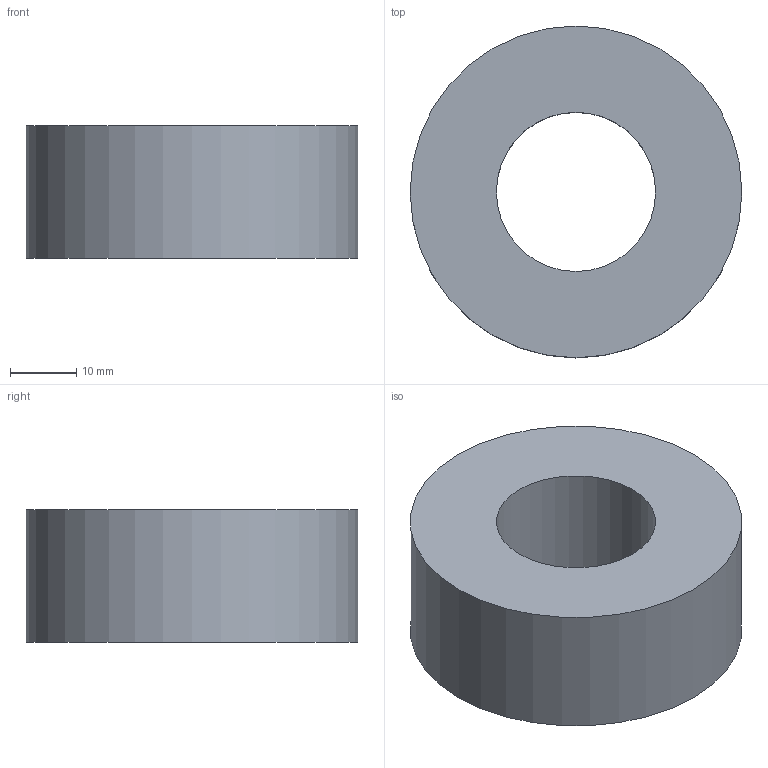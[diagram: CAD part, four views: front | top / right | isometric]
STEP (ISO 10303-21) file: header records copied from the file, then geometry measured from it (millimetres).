
FILE_DESCRIPTION(('Open CASCADE Model'),'2;1');
FILE_NAME('Open CASCADE Shape Model','2026-09-19T16:36:14',('Author'),( 'Open CASCADE'),'Open CASCADE STEP processor 7.8','Open CASCADE 7.8' ,'Unknown');
FILE_SCHEMA(('AUTOMOTIVE_DESIGN { 1 0 10303 214 1 1 1 1 }'));
Length unit declared in the file: millimetre
Products named in the file (1): Open CASCADE STEP translator 7.8 10
Bounding box: 50 x 50 x 20 mm (x, y, z)
Volume: 30222.1 mm3; surface area: 7671.8 mm2
Topology: 1 solids, 1 shells, 4 faces, 6 edges, 4 vertices
Faces by surface type: cylinder 2, plane 2
Full cylindrical faces by diameter (mm): 24 x1, 50 x1
Entity records: 192 total; most frequent: CARTESIAN_POINT 39, DIRECTION 30, ORIENTED_EDGE 12, PCURVE 12, DEFINITIONAL_REPRESENTATION 12, LINE 10, VECTOR 10, AXIS2_PLACEMENT_3D 9
